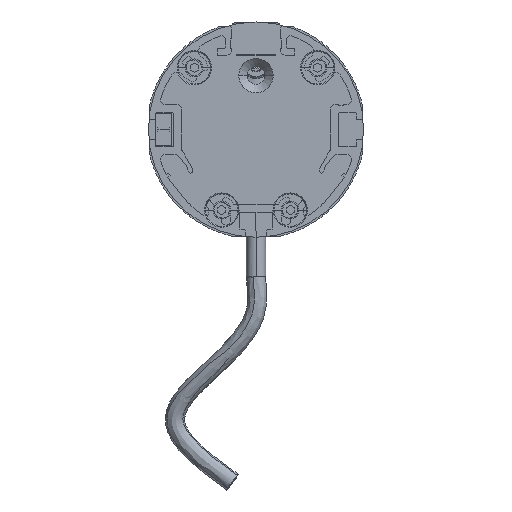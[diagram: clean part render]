
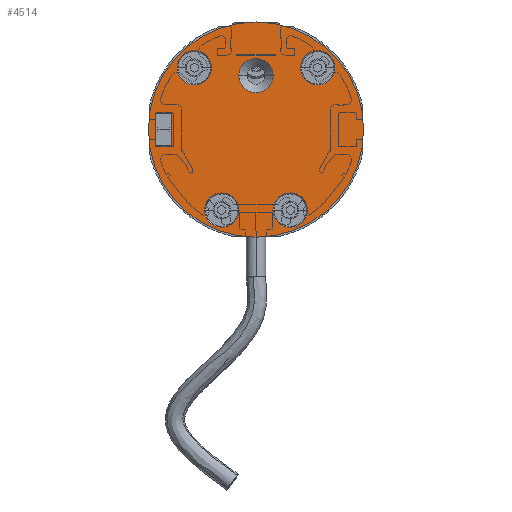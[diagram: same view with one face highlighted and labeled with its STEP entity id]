
A CAD part, front view. The second image highlights one B-rep face of the part: STEP entity #4514.
In plain terms, the highlighted planar face has unit normal (0, -1, 0) as drawn and (0, 1, 0) by its records, which use the part's own axes.
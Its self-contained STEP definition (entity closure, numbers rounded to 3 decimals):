
#62 = EDGE_CURVE ( 'NONE', #16852, #25196, #22403, .T. ) ;
#389 = ORIENTED_EDGE ( 'NONE', *, *, #2218, .T. ) ;
#420 = VERTEX_POINT ( 'NONE', #5834 ) ;
#681 = CARTESIAN_POINT ( 'NONE',  ( -19.092, 3., 19.092 ) ) ;
#886 = CIRCLE ( 'NONE', #3052, 5.3 ) ;
#1214 = CIRCLE ( 'NONE', #21961, 5.3 ) ;
#1575 = DIRECTION ( 'NONE',  ( 0., 0., 1. ) ) ;
#1987 = AXIS2_PLACEMENT_3D ( 'NONE', #17646, #28313, #9559 ) ;
#2218 = EDGE_CURVE ( 'NONE', #22636, #27645, #1214, .T. ) ;
#2614 = EDGE_LOOP ( 'NONE', ( #11276, #10488 ) ) ;
#2769 = CIRCLE ( 'NONE', #27775, 33.25 ) ;
#3052 = AXIS2_PLACEMENT_3D ( 'NONE', #17578, #17932, #23001 ) ;
#3156 = AXIS2_PLACEMENT_3D ( 'NONE', #20279, #31388, #22915 ) ;
#3421 = CIRCLE ( 'NONE', #8250, 33.25 ) ;
#3811 = ORIENTED_EDGE ( 'NONE', *, *, #62, .T. ) ;
#3889 = DIRECTION ( 'NONE',  ( 0., -1., 0. ) ) ;
#4146 = DIRECTION ( 'NONE',  ( 0., -1., 0. ) ) ;
#4228 = EDGE_CURVE ( 'NONE', #16306, #15538, #2769, .T. ) ;
#4281 = DIRECTION ( 'NONE',  ( 0., -1., 0. ) ) ;
#4327 = CARTESIAN_POINT ( 'NONE',  ( 24.854, 3., -10.55 ) ) ;
#4384 = CARTESIAN_POINT ( 'NONE',  ( 0., 3., 0. ) ) ;
#4514 = ADVANCED_FACE ( 'NONE', ( #17673, #17236, #30923, #23866, #16837, #9801 ), #8655, .T. ) ;
#5834 = CARTESIAN_POINT ( 'NONE',  ( -16.7, 3., -5.3 ) ) ;
#6749 = CIRCLE ( 'NONE', #3156, 5.3 ) ;
#6842 = CARTESIAN_POINT ( 'NONE',  ( -19.092, 3., 13.792 ) ) ;
#6854 = DIRECTION ( 'NONE',  ( 0., 0., -1. ) ) ;
#7730 = CIRCLE ( 'NONE', #1987, 5.3 ) ;
#8250 = AXIS2_PLACEMENT_3D ( 'NONE', #21611, #24242, #10740 ) ;
#8454 = EDGE_LOOP ( 'NONE', ( #19432, #18592 ) ) ;
#8535 = DIRECTION ( 'NONE',  ( 0., 0., 1. ) ) ;
#8655 = PLANE ( 'NONE',  #8902 ) ;
#8902 = AXIS2_PLACEMENT_3D ( 'NONE', #32506, #29730, #29856 ) ;
#9475 = EDGE_LOOP ( 'NONE', ( #18982, #3811 ) ) ;
#9559 = DIRECTION ( 'NONE',  ( 0., 0., 1. ) ) ;
#9751 = EDGE_CURVE ( 'NONE', #15538, #16306, #3421, .T. ) ;
#9801 = FACE_BOUND ( 'NONE', #2614, .T. ) ;
#10144 = CARTESIAN_POINT ( 'NONE',  ( -19.092, 3., -13.792 ) ) ;
#10488 = ORIENTED_EDGE ( 'NONE', *, *, #24797, .T. ) ;
#10609 = CARTESIAN_POINT ( 'NONE',  ( 24.854, 3., 5.25 ) ) ;
#10733 = AXIS2_PLACEMENT_3D ( 'NONE', #17320, #4146, #22625 ) ;
#10740 = DIRECTION ( 'NONE',  ( 0., 0., -1. ) ) ;
#10999 = EDGE_CURVE ( 'NONE', #21043, #29207, #21243, .T. ) ;
#11276 = ORIENTED_EDGE ( 'NONE', *, *, #17571, .T. ) ;
#13930 = DIRECTION ( 'NONE',  ( 0., -1., 0. ) ) ;
#14105 = AXIS2_PLACEMENT_3D ( 'NONE', #4327, #23065, #25624 ) ;
#14386 = DIRECTION ( 'NONE',  ( 0., -1., 0. ) ) ;
#14402 = EDGE_CURVE ( 'NONE', #22707, #26264, #7730, .T. ) ;
#15538 = VERTEX_POINT ( 'NONE', #21924 ) ;
#15587 = CIRCLE ( 'NONE', #23685, 5.3 ) ;
#16172 = DIRECTION ( 'NONE',  ( 0., 0., 1. ) ) ;
#16306 = VERTEX_POINT ( 'NONE', #20811 ) ;
#16837 = FACE_BOUND ( 'NONE', #19044, .T. ) ;
#16852 = VERTEX_POINT ( 'NONE', #29397 ) ;
#17064 = DIRECTION ( 'NONE',  ( 0., 0., 1. ) ) ;
#17236 = FACE_BOUND ( 'NONE', #9475, .T. ) ;
#17320 = CARTESIAN_POINT ( 'NONE',  ( -16.7, 3., 0. ) ) ;
#17571 = EDGE_CURVE ( 'NONE', #18708, #420, #27166, .T. ) ;
#17578 = CARTESIAN_POINT ( 'NONE',  ( -19.092, 3., -19.092 ) ) ;
#17646 = CARTESIAN_POINT ( 'NONE',  ( -19.092, 3., -19.092 ) ) ;
#17673 = FACE_OUTER_BOUND ( 'NONE', #26704, .T. ) ;
#17932 = DIRECTION ( 'NONE',  ( 0., -1., 0. ) ) ;
#18552 = EDGE_LOOP ( 'NONE', ( #389, #21460 ) ) ;
#18592 = ORIENTED_EDGE ( 'NONE', *, *, #28011, .T. ) ;
#18708 = VERTEX_POINT ( 'NONE', #23134 ) ;
#18982 = ORIENTED_EDGE ( 'NONE', *, *, #31411, .T. ) ;
#19044 = EDGE_LOOP ( 'NONE', ( #33135, #33501 ) ) ;
#19432 = ORIENTED_EDGE ( 'NONE', *, *, #10999, .T. ) ;
#20279 = CARTESIAN_POINT ( 'NONE',  ( 24.854, 3., 10.55 ) ) ;
#20811 = CARTESIAN_POINT ( 'NONE',  ( 0., 3., -33.25 ) ) ;
#21034 = CARTESIAN_POINT ( 'NONE',  ( -19.092, 3., 24.392 ) ) ;
#21043 = VERTEX_POINT ( 'NONE', #26878 ) ;
#21243 = CIRCLE ( 'NONE', #21338, 5.3 ) ;
#21300 = EDGE_CURVE ( 'NONE', #26264, #22707, #886, .T. ) ;
#21338 = AXIS2_PLACEMENT_3D ( 'NONE', #30037, #14386, #17064 ) ;
#21460 = ORIENTED_EDGE ( 'NONE', *, *, #25926, .T. ) ;
#21520 = DIRECTION ( 'NONE',  ( 0., -1., 0. ) ) ;
#21611 = CARTESIAN_POINT ( 'NONE',  ( 0., 3., 0. ) ) ;
#21924 = CARTESIAN_POINT ( 'NONE',  ( 0., 3., 33.25 ) ) ;
#21961 = AXIS2_PLACEMENT_3D ( 'NONE', #681, #21520, #16172 ) ;
#21978 = CARTESIAN_POINT ( 'NONE',  ( -19.092, 3., 19.092 ) ) ;
#22403 = CIRCLE ( 'NONE', #26575, 5.3 ) ;
#22625 = DIRECTION ( 'NONE',  ( 0., 0., 1. ) ) ;
#22636 = VERTEX_POINT ( 'NONE', #21034 ) ;
#22707 = VERTEX_POINT ( 'NONE', #24895 ) ;
#22915 = DIRECTION ( 'NONE',  ( 0., 0., 1. ) ) ;
#23001 = DIRECTION ( 'NONE',  ( 0., 0., 1. ) ) ;
#23065 = DIRECTION ( 'NONE',  ( 0., -1., 0. ) ) ;
#23134 = CARTESIAN_POINT ( 'NONE',  ( -16.7, 3., 5.3 ) ) ;
#23685 = AXIS2_PLACEMENT_3D ( 'NONE', #29820, #13930, #29934 ) ;
#23741 = CARTESIAN_POINT ( 'NONE',  ( 24.854, 3., -5.25 ) ) ;
#23866 = FACE_BOUND ( 'NONE', #18552, .T. ) ;
#24242 = DIRECTION ( 'NONE',  ( 0., -1., 0. ) ) ;
#24797 = EDGE_CURVE ( 'NONE', #420, #18708, #15587, .T. ) ;
#24895 = CARTESIAN_POINT ( 'NONE',  ( -19.092, 3., -24.392 ) ) ;
#25183 = ORIENTED_EDGE ( 'NONE', *, *, #4228, .F. ) ;
#25196 = VERTEX_POINT ( 'NONE', #23741 ) ;
#25624 = DIRECTION ( 'NONE',  ( 0., 0., 1. ) ) ;
#25714 = AXIS2_PLACEMENT_3D ( 'NONE', #21978, #27067, #8535 ) ;
#25926 = EDGE_CURVE ( 'NONE', #27645, #22636, #27962, .T. ) ;
#26264 = VERTEX_POINT ( 'NONE', #10144 ) ;
#26575 = AXIS2_PLACEMENT_3D ( 'NONE', #32838, #3889, #1575 ) ;
#26704 = EDGE_LOOP ( 'NONE', ( #25183, #28757 ) ) ;
#26878 = CARTESIAN_POINT ( 'NONE',  ( 24.854, 3., 15.85 ) ) ;
#27067 = DIRECTION ( 'NONE',  ( 0., -1., 0. ) ) ;
#27166 = CIRCLE ( 'NONE', #10733, 5.3 ) ;
#27645 = VERTEX_POINT ( 'NONE', #6842 ) ;
#27775 = AXIS2_PLACEMENT_3D ( 'NONE', #4384, #4281, #6854 ) ;
#27962 = CIRCLE ( 'NONE', #25714, 5.3 ) ;
#28011 = EDGE_CURVE ( 'NONE', #29207, #21043, #6749, .T. ) ;
#28313 = DIRECTION ( 'NONE',  ( 0., -1., 0. ) ) ;
#28757 = ORIENTED_EDGE ( 'NONE', *, *, #9751, .F. ) ;
#28912 = CIRCLE ( 'NONE', #14105, 5.3 ) ;
#29207 = VERTEX_POINT ( 'NONE', #10609 ) ;
#29397 = CARTESIAN_POINT ( 'NONE',  ( 24.854, 3., -15.85 ) ) ;
#29730 = DIRECTION ( 'NONE',  ( 0., 1., 0. ) ) ;
#29820 = CARTESIAN_POINT ( 'NONE',  ( -16.7, 3., 0. ) ) ;
#29856 = DIRECTION ( 'NONE',  ( 0., 0., 1. ) ) ;
#29934 = DIRECTION ( 'NONE',  ( 0., 0., 1. ) ) ;
#30037 = CARTESIAN_POINT ( 'NONE',  ( 24.854, 3., 10.55 ) ) ;
#30923 = FACE_BOUND ( 'NONE', #8454, .T. ) ;
#31388 = DIRECTION ( 'NONE',  ( 0., -1., 0. ) ) ;
#31411 = EDGE_CURVE ( 'NONE', #25196, #16852, #28912, .T. ) ;
#32506 = CARTESIAN_POINT ( 'NONE',  ( 0., 3., 0. ) ) ;
#32838 = CARTESIAN_POINT ( 'NONE',  ( 24.854, 3., -10.55 ) ) ;
#33135 = ORIENTED_EDGE ( 'NONE', *, *, #21300, .T. ) ;
#33501 = ORIENTED_EDGE ( 'NONE', *, *, #14402, .T. ) ;
